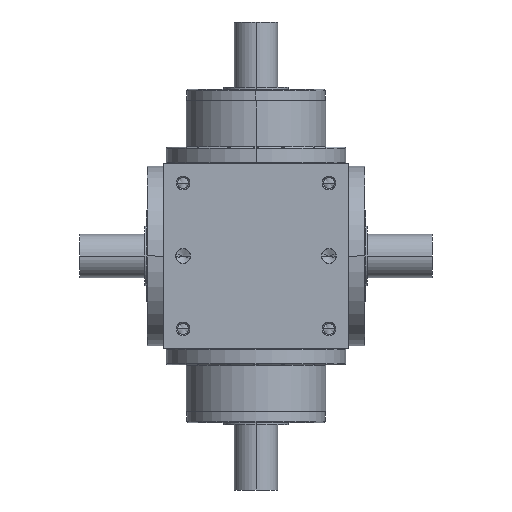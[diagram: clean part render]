
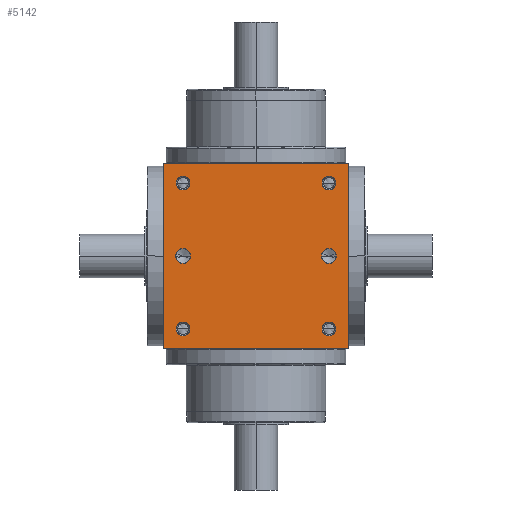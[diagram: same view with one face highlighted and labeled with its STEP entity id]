
A CAD part, front view. The second image highlights one B-rep face of the part: STEP entity #5142.
In plain terms, the highlighted planar face has unit normal (0, -1, 0).
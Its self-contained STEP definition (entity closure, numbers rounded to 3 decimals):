
#5=DIRECTION('',(1.,0.,0.));
#6=VECTOR('',#5,170.);
#7=CARTESIAN_POINT('',(-85.,-85.,-85.));
#8=LINE('',#7,#6);
#165=DIRECTION('',(0.,0.,1.));
#166=VECTOR('',#165,170.);
#167=CARTESIAN_POINT('',(85.,-85.,-85.));
#168=LINE('',#167,#166);
#219=DIRECTION('',(0.,0.,1.));
#220=VECTOR('',#219,170.);
#221=CARTESIAN_POINT('',(-85.,-85.,-85.));
#222=LINE('',#221,#220);
#223=CARTESIAN_POINT('',(67.,-85.,67.));
#224=DIRECTION('',(0.,1.,0.));
#225=DIRECTION('',(-1.,0.,0.));
#226=AXIS2_PLACEMENT_3D('',#223,#224,#225);
#228=CARTESIAN_POINT('',(67.,-85.,67.));
#229=DIRECTION('',(0.,1.,0.));
#230=DIRECTION('',(1.,0.,0.));
#231=AXIS2_PLACEMENT_3D('',#228,#229,#230);
#233=CARTESIAN_POINT('',(-67.,-85.,67.));
#234=DIRECTION('',(0.,1.,0.));
#235=DIRECTION('',(-1.,0.,0.));
#236=AXIS2_PLACEMENT_3D('',#233,#234,#235);
#238=CARTESIAN_POINT('',(-67.,-85.,67.));
#239=DIRECTION('',(0.,1.,0.));
#240=DIRECTION('',(1.,0.,0.));
#241=AXIS2_PLACEMENT_3D('',#238,#239,#240);
#243=CARTESIAN_POINT('',(67.,-85.,-67.));
#244=DIRECTION('',(0.,1.,0.));
#245=DIRECTION('',(-1.,0.,0.));
#246=AXIS2_PLACEMENT_3D('',#243,#244,#245);
#248=CARTESIAN_POINT('',(67.,-85.,-67.));
#249=DIRECTION('',(0.,1.,0.));
#250=DIRECTION('',(1.,0.,0.));
#251=AXIS2_PLACEMENT_3D('',#248,#249,#250);
#253=CARTESIAN_POINT('',(-67.,-85.,-67.));
#254=DIRECTION('',(0.,1.,0.));
#255=DIRECTION('',(-1.,0.,0.));
#256=AXIS2_PLACEMENT_3D('',#253,#254,#255);
#258=CARTESIAN_POINT('',(-67.,-85.,-67.));
#259=DIRECTION('',(0.,1.,0.));
#260=DIRECTION('',(1.,0.,0.));
#261=AXIS2_PLACEMENT_3D('',#258,#259,#260);
#263=CARTESIAN_POINT('',(-67.,-85.,0.));
#264=DIRECTION('',(0.,1.,0.));
#265=DIRECTION('',(1.,0.,0.));
#266=AXIS2_PLACEMENT_3D('',#263,#264,#265);
#268=CARTESIAN_POINT('',(-67.,-85.,0.));
#269=DIRECTION('',(0.,1.,0.));
#270=DIRECTION('',(-1.,0.,0.));
#271=AXIS2_PLACEMENT_3D('',#268,#269,#270);
#273=CARTESIAN_POINT('',(67.,-85.,0.));
#274=DIRECTION('',(0.,1.,0.));
#275=DIRECTION('',(1.,0.,0.));
#276=AXIS2_PLACEMENT_3D('',#273,#274,#275);
#278=CARTESIAN_POINT('',(67.,-85.,0.));
#279=DIRECTION('',(0.,1.,0.));
#280=DIRECTION('',(-1.,0.,0.));
#281=AXIS2_PLACEMENT_3D('',#278,#279,#280);
#295=DIRECTION('',(1.,0.,0.));
#296=VECTOR('',#295,170.);
#297=CARTESIAN_POINT('',(-85.,-85.,85.));
#298=LINE('',#297,#296);
#4116=CARTESIAN_POINT('',(-85.,-85.,-85.));
#4118=VERTEX_POINT('',#4116);
#4119=CARTESIAN_POINT('',(85.,-85.,-85.));
#4120=VERTEX_POINT('',#4119);
#4124=CARTESIAN_POINT('',(-85.,-85.,85.));
#4126=VERTEX_POINT('',#4124);
#4127=CARTESIAN_POINT('',(85.,-85.,85.));
#4128=VERTEX_POINT('',#4127);
#4307=CARTESIAN_POINT('',(60.65,-85.,67.));
#4308=CARTESIAN_POINT('',(73.35,-85.,67.));
#4309=VERTEX_POINT('',#4307);
#4310=VERTEX_POINT('',#4308);
#4315=CARTESIAN_POINT('',(-73.35,-85.,67.));
#4316=CARTESIAN_POINT('',(-60.65,-85.,67.));
#4317=VERTEX_POINT('',#4315);
#4318=VERTEX_POINT('',#4316);
#4323=CARTESIAN_POINT('',(60.65,-85.,-67.));
#4324=CARTESIAN_POINT('',(73.35,-85.,-67.));
#4325=VERTEX_POINT('',#4323);
#4326=VERTEX_POINT('',#4324);
#4331=CARTESIAN_POINT('',(-73.35,-85.,-67.));
#4332=CARTESIAN_POINT('',(-60.65,-85.,-67.));
#4333=VERTEX_POINT('',#4331);
#4334=VERTEX_POINT('',#4332);
#4691=CARTESIAN_POINT('',(-60.15,-85.,0.));
#4692=CARTESIAN_POINT('',(-73.85,-85.,
0.));
#4693=VERTEX_POINT('',#4691);
#4694=VERTEX_POINT('',#4692);
#4699=CARTESIAN_POINT('',(73.85,-85.,0.));
#4700=CARTESIAN_POINT('',(60.15,-85.,0.));
#4701=VERTEX_POINT('',#4699);
#4702=VERTEX_POINT('',#4700);
#5094=CARTESIAN_POINT('',(-85.,-85.,-85.));
#5095=DIRECTION('',(0.,-1.,0.));
#5096=DIRECTION('',(1.,0.,0.));
#5097=AXIS2_PLACEMENT_3D('',#5094,#5095,#5096);
#5098=PLANE('',#5097);
#5099=ORIENTED_EDGE('',*,*,#4928,.F.);
#5100=ORIENTED_EDGE('',*,*,#4977,.T.);
#5102=ORIENTED_EDGE('',*,*,#5101,.T.);
#5103=ORIENTED_EDGE('',*,*,#5056,.F.);
#5104=EDGE_LOOP('',(#5099,#5100,#5102,#5103));
#5105=FACE_OUTER_BOUND('',#5104,.F.);
#5107=ORIENTED_EDGE('',*,*,#5106,.F.);
#5109=ORIENTED_EDGE('',*,*,#5108,.F.);
#5110=EDGE_LOOP('',(#5107,#5109));
#5111=FACE_BOUND('',#5110,.F.);
#5113=ORIENTED_EDGE('',*,*,#5112,.F.);
#5115=ORIENTED_EDGE('',*,*,#5114,.F.);
#5116=EDGE_LOOP('',(#5113,#5115));
#5117=FACE_BOUND('',#5116,.F.);
#5119=ORIENTED_EDGE('',*,*,#5118,.F.);
#5121=ORIENTED_EDGE('',*,*,#5120,.F.);
#5122=EDGE_LOOP('',(#5119,#5121));
#5123=FACE_BOUND('',#5122,.F.);
#5125=ORIENTED_EDGE('',*,*,#5124,.F.);
#5127=ORIENTED_EDGE('',*,*,#5126,.F.);
#5128=EDGE_LOOP('',(#5125,#5127));
#5129=FACE_BOUND('',#5128,.F.);
#5131=ORIENTED_EDGE('',*,*,#5130,.F.);
#5133=ORIENTED_EDGE('',*,*,#5132,.F.);
#5134=EDGE_LOOP('',(#5131,#5133));
#5135=FACE_BOUND('',#5134,.F.);
#5137=ORIENTED_EDGE('',*,*,#5136,.F.);
#5139=ORIENTED_EDGE('',*,*,#5138,.F.);
#5140=EDGE_LOOP('',(#5137,#5139));
#5141=FACE_BOUND('',#5140,.F.);
#5142=ADVANCED_FACE('',(#5105,#5111,#5117,#5123,#5129,#5135,#5141),#5098,.T.);
#227=CIRCLE('',#226,6.35);
#232=CIRCLE('',#231,6.35);
#237=CIRCLE('',#236,6.35);
#242=CIRCLE('',#241,6.35);
#247=CIRCLE('',#246,6.35);
#252=CIRCLE('',#251,6.35);
#257=CIRCLE('',#256,6.35);
#262=CIRCLE('',#261,6.35);
#267=CIRCLE('',#266,6.85);
#272=CIRCLE('',#271,6.85);
#277=CIRCLE('',#276,6.85);
#282=CIRCLE('',#281,6.85);
#4928=EDGE_CURVE('',#4118,#4120,#8,.T.);
#4977=EDGE_CURVE('',#4118,#4126,#222,.T.);
#5056=EDGE_CURVE('',#4120,#4128,#168,.T.);
#5101=EDGE_CURVE('',#4126,#4128,#298,.T.);
#5106=EDGE_CURVE('',#4309,#4310,#227,.T.);
#5108=EDGE_CURVE('',#4310,#4309,#232,.T.);
#5112=EDGE_CURVE('',#4317,#4318,#237,.T.);
#5114=EDGE_CURVE('',#4318,#4317,#242,.T.);
#5118=EDGE_CURVE('',#4325,#4326,#247,.T.);
#5120=EDGE_CURVE('',#4326,#4325,#252,.T.);
#5124=EDGE_CURVE('',#4333,#4334,#257,.T.);
#5126=EDGE_CURVE('',#4334,#4333,#262,.T.);
#5130=EDGE_CURVE('',#4693,#4694,#267,.T.);
#5132=EDGE_CURVE('',#4694,#4693,#272,.T.);
#5136=EDGE_CURVE('',#4701,#4702,#277,.T.);
#5138=EDGE_CURVE('',#4702,#4701,#282,.T.);
